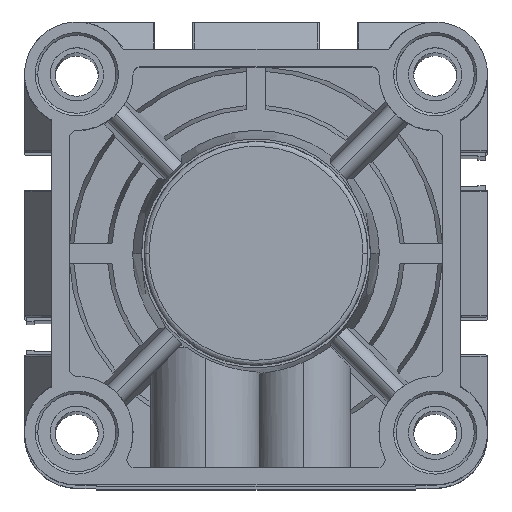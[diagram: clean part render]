
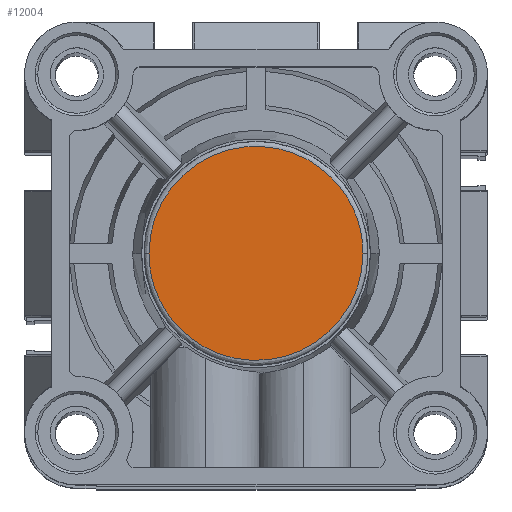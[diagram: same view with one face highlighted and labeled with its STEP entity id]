
A CAD part, top view. The second image highlights one B-rep face of the part: STEP entity #12004.
In plain terms, the highlighted planar face has unit normal (0, 0, 1).
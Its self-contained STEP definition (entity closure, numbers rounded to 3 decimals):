
#1815 = EDGE_CURVE ( 'NONE', #35161, #24676, #32386, .T. ) ;
#2213 = EDGE_LOOP ( 'NONE', ( #28052, #9368 ) ) ;
#2633 = CARTESIAN_POINT ( 'NONE',  ( 62.5, 41., 40. ) ) ;
#7311 = CARTESIAN_POINT ( 'NONE',  ( 19.5, 41., 40. ) ) ;
#9368 = ORIENTED_EDGE ( 'NONE', *, *, #1815, .F. ) ;
#11596 = CARTESIAN_POINT ( 'NONE',  ( 62.5, 41., 40. ) ) ;
#11643 = CARTESIAN_POINT ( 'NONE',  ( 62.5, 84., 40. ) ) ;
#11737 = CARTESIAN_POINT ( 'NONE',  ( 19.5, 41., 40. ) ) ;
#11795 = CARTESIAN_POINT ( 'NONE',  ( 19.5, 84., 40. ) ) ;
#12004 = ADVANCED_FACE ( 'NONE', ( #40262 ), #36504, .T. ) ;
#24429 = EDGE_CURVE ( 'NONE', #24676, #35161, #30689, .T. ) ;
#24676 = VERTEX_POINT ( 'NONE', #7311 ) ;
#28052 = ORIENTED_EDGE ( 'NONE', *, *, #24429, .F. ) ;
#30689 =( BOUNDED_CURVE ( )  B_SPLINE_CURVE ( 3, ( #11737, #11795, #11643, #11596 ),
 .UNSPECIFIED., .F., .F. ) 
 B_SPLINE_CURVE_WITH_KNOTS ( ( 4, 4 ),
 ( 0., 1. ),
 .UNSPECIFIED. ) 
 CURVE ( )  GEOMETRIC_REPRESENTATION_ITEM ( )  RATIONAL_B_SPLINE_CURVE ( ( 0.957, 0.319, 0.319, 0.957 ) ) 
 REPRESENTATION_ITEM ( '' )  );
#31360 = CARTESIAN_POINT ( 'NONE',  ( 19.5, 41., 40. ) ) ;
#31389 = CARTESIAN_POINT ( 'NONE',  ( 62.5, 41., 40. ) ) ;
#31779 = CARTESIAN_POINT ( 'NONE',  ( 62.5, -2., 40. ) ) ;
#31938 = CARTESIAN_POINT ( 'NONE',  ( 19.5, -2., 40. ) ) ;
#32386 =( BOUNDED_CURVE ( )  B_SPLINE_CURVE ( 3, ( #31389, #31779, #31938, #31360 ),
 .UNSPECIFIED., .F., .T. ) 
 B_SPLINE_CURVE_WITH_KNOTS ( ( 4, 4 ),
 ( 0., 1. ),
 .UNSPECIFIED. ) 
 CURVE ( )  GEOMETRIC_REPRESENTATION_ITEM ( )  RATIONAL_B_SPLINE_CURVE ( ( 0.957, 0.319, 0.319, 0.957 ) ) 
 REPRESENTATION_ITEM ( '' )  );
#33475 = AXIS2_PLACEMENT_3D ( 'NONE', #36363, #36313, #36274 ) ;
#35161 = VERTEX_POINT ( 'NONE', #2633 ) ;
#36274 = DIRECTION ( 'NONE',  ( 1., 0., 0. ) ) ;
#36313 = DIRECTION ( 'NONE',  ( 0., 0., 1. ) ) ;
#36363 = CARTESIAN_POINT ( 'NONE',  ( 19.242, 19.242, 40. ) ) ;
#36504 = PLANE ( 'NONE',  #33475 ) ;
#40262 = FACE_OUTER_BOUND ( 'NONE', #2213, .T. ) ;
